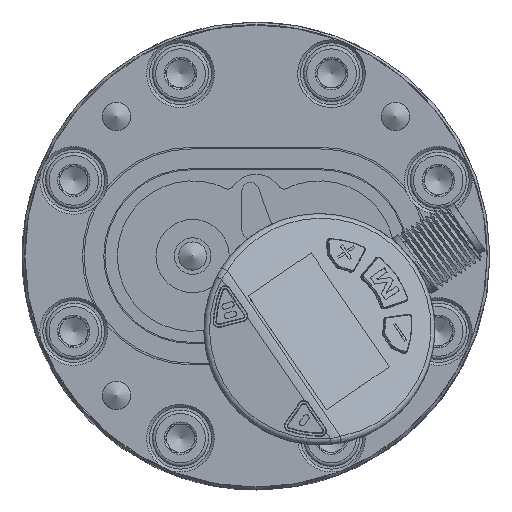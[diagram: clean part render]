
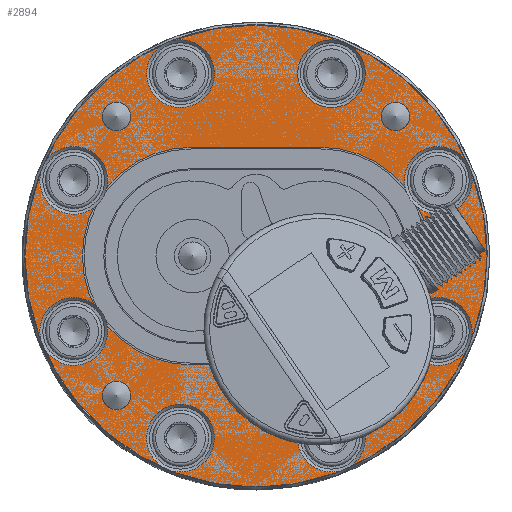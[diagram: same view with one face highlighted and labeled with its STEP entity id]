
A CAD part, top view. The second image highlights one B-rep face of the part: STEP entity #2894.
In plain terms, the highlighted planar face has unit normal (0, 0, 1).
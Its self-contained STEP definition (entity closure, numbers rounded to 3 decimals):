
#2894=ADVANCED_FACE('',(#6294,#6295,#6296,#6297,#6298,#6299,#6300,#6301,
#6302,#6303,#6304,#6305,#6306,#6307),#3775,.T.);
#3775=PLANE('',#15254);
#4160=LINE('',#21211,#4818);
#4163=LINE('',#21219,#4821);
#4818=VECTOR('',#17026,1.);
#4821=VECTOR('',#17035,1.);
#5465=CIRCLE('',#15137,2.5);
#5467=CIRCLE('',#15141,2.5);
#5469=CIRCLE('',#15145,2.5);
#5472=CIRCLE('',#15150,3.);
#5475=CIRCLE('',#15156,3.);
#5478=CIRCLE('',#15162,3.);
#5481=CIRCLE('',#15168,3.);
#5484=CIRCLE('',#15174,3.);
#5487=CIRCLE('',#15180,3.);
#5490=CIRCLE('',#15186,3.);
#5519=CIRCLE('',#15246,19.3);
#5520=CIRCLE('',#15249,19.3);
#5521=CIRCLE('',#15251,41.);
#5522=CIRCLE('',#15252,2.5);
#5523=CIRCLE('',#15253,3.);
#6294=FACE_BOUND('',#7015,.T.);
#6295=FACE_BOUND('',#7016,.T.);
#6296=FACE_BOUND('',#7017,.T.);
#6297=FACE_BOUND('',#7018,.T.);
#6298=FACE_BOUND('',#7019,.T.);
#6299=FACE_BOUND('',#7020,.T.);
#6300=FACE_BOUND('',#7021,.T.);
#6301=FACE_BOUND('',#7022,.T.);
#6302=FACE_BOUND('',#7023,.T.);
#6303=FACE_BOUND('',#7024,.T.);
#6304=FACE_BOUND('',#7025,.T.);
#6305=FACE_BOUND('',#7026,.T.);
#6306=FACE_BOUND('',#7027,.T.);
#6307=FACE_BOUND('',#7028,.T.);
#7015=EDGE_LOOP('',(#8422));
#7016=EDGE_LOOP('',(#8423));
#7017=EDGE_LOOP('',(#8424));
#7018=EDGE_LOOP('',(#8425));
#7019=EDGE_LOOP('',(#8426));
#7020=EDGE_LOOP('',(#8427));
#7021=EDGE_LOOP('',(#8428));
#7022=EDGE_LOOP('',(#8429));
#7023=EDGE_LOOP('',(#8430));
#7024=EDGE_LOOP('',(#8431));
#7025=EDGE_LOOP('',(#8432));
#7026=EDGE_LOOP('',(#8433));
#7027=EDGE_LOOP('',(#8434));
#7028=EDGE_LOOP('',(#8435,#8436,#8437,#8438));
#8422=ORIENTED_EDGE('',*,*,#13139,.T.);
#8423=ORIENTED_EDGE('',*,*,#13037,.T.);
#8424=ORIENTED_EDGE('',*,*,#13039,.T.);
#8425=ORIENTED_EDGE('',*,*,#13041,.T.);
#8426=ORIENTED_EDGE('',*,*,#13140,.T.);
#8427=ORIENTED_EDGE('',*,*,#13044,.T.);
#8428=ORIENTED_EDGE('',*,*,#13047,.T.);
#8429=ORIENTED_EDGE('',*,*,#13050,.T.);
#8430=ORIENTED_EDGE('',*,*,#13053,.T.);
#8431=ORIENTED_EDGE('',*,*,#13056,.T.);
#8432=ORIENTED_EDGE('',*,*,#13059,.T.);
#8433=ORIENTED_EDGE('',*,*,#13062,.T.);
#8434=ORIENTED_EDGE('',*,*,#13141,.T.);
#8435=ORIENTED_EDGE('',*,*,#13138,.T.);
#8436=ORIENTED_EDGE('',*,*,#13136,.T.);
#8437=ORIENTED_EDGE('',*,*,#13134,.T.);
#8438=ORIENTED_EDGE('',*,*,#13132,.T.);
#11806=VERTEX_POINT('',#20973);
#11809=VERTEX_POINT('',#20980);
#11812=VERTEX_POINT('',#20987);
#11815=VERTEX_POINT('',#20995);
#11819=VERTEX_POINT('',#21005);
#11823=VERTEX_POINT('',#21015);
#11827=VERTEX_POINT('',#21025);
#11831=VERTEX_POINT('',#21035);
#11835=VERTEX_POINT('',#21045);
#11839=VERTEX_POINT('',#21055);
#11889=VERTEX_POINT('',#21210);
#11890=VERTEX_POINT('',#21212);
#11891=VERTEX_POINT('',#21216);
#11892=VERTEX_POINT('',#21220);
#11893=VERTEX_POINT('',#21226);
#11894=VERTEX_POINT('',#21228);
#11895=VERTEX_POINT('',#21230);
#13037=EDGE_CURVE('',#11806,#11806,#5465,.T.);
#13039=EDGE_CURVE('',#11809,#11809,#5467,.T.);
#13041=EDGE_CURVE('',#11812,#11812,#5469,.T.);
#13044=EDGE_CURVE('',#11815,#11815,#5472,.T.);
#13047=EDGE_CURVE('',#11819,#11819,#5475,.T.);
#13050=EDGE_CURVE('',#11823,#11823,#5478,.T.);
#13053=EDGE_CURVE('',#11827,#11827,#5481,.T.);
#13056=EDGE_CURVE('',#11831,#11831,#5484,.T.);
#13059=EDGE_CURVE('',#11835,#11835,#5487,.T.);
#13062=EDGE_CURVE('',#11839,#11839,#5490,.T.);
#13132=EDGE_CURVE('',#11890,#11889,#4160,.T.);
#13134=EDGE_CURVE('',#11891,#11890,#5519,.T.);
#13136=EDGE_CURVE('',#11892,#11891,#4163,.T.);
#13138=EDGE_CURVE('',#11889,#11892,#5520,.T.);
#13139=EDGE_CURVE('',#11893,#11893,#5521,.T.);
#13140=EDGE_CURVE('',#11894,#11894,#5522,.T.);
#13141=EDGE_CURVE('',#11895,#11895,#5523,.T.);
#15137=AXIS2_PLACEMENT_3D('',#20972,#16779,#16780);
#15141=AXIS2_PLACEMENT_3D('',#20979,#16787,#16788);
#15145=AXIS2_PLACEMENT_3D('',#20986,#16795,#16796);
#15150=AXIS2_PLACEMENT_3D('',#20994,#16805,#16806);
#15156=AXIS2_PLACEMENT_3D('',#21004,#16817,#16818);
#15162=AXIS2_PLACEMENT_3D('',#21014,#16829,#16830);
#15168=AXIS2_PLACEMENT_3D('',#21024,#16841,#16842);
#15174=AXIS2_PLACEMENT_3D('',#21034,#16853,#16854);
#15180=AXIS2_PLACEMENT_3D('',#21044,#16865,#16866);
#15186=AXIS2_PLACEMENT_3D('',#21054,#16877,#16878);
#15246=AXIS2_PLACEMENT_3D('',#21215,#17030,#17031);
#15249=AXIS2_PLACEMENT_3D('',#21223,#17039,#17040);
#15251=AXIS2_PLACEMENT_3D('',#21225,#17043,#17044);
#15252=AXIS2_PLACEMENT_3D('',#21227,#17045,#17046);
#15253=AXIS2_PLACEMENT_3D('',#21229,#17047,#17048);
#15254=AXIS2_PLACEMENT_3D('',#21231,#17049,#17050);
#16779=DIRECTION('',(0.,0.,-1.));
#16780=DIRECTION('',(-0.707,0.707,0.));
#16787=DIRECTION('',(0.,0.,-1.));
#16788=DIRECTION('',(0.707,0.707,0.));
#16795=DIRECTION('',(0.,0.,-1.));
#16796=DIRECTION('',(0.707,-0.707,0.));
#16805=DIRECTION('',(0.,0.,-1.));
#16806=DIRECTION('',(0.924,-0.383,0.));
#16817=DIRECTION('',(0.,0.,-1.));
#16818=DIRECTION('',(0.383,-0.924,0.));
#16829=DIRECTION('',(0.,0.,-1.));
#16830=DIRECTION('',(-0.383,-0.924,0.));
#16841=DIRECTION('',(0.,0.,-1.));
#16842=DIRECTION('',(-0.924,-0.383,0.));
#16853=DIRECTION('',(0.,0.,-1.));
#16854=DIRECTION('',(-0.924,0.383,0.));
#16865=DIRECTION('',(0.,0.,-1.));
#16866=DIRECTION('',(-0.383,0.924,0.));
#16877=DIRECTION('',(0.,0.,-1.));
#16878=DIRECTION('',(0.383,0.924,0.));
#17026=DIRECTION('',(-1.,0.,0.));
#17030=DIRECTION('',(0.,0.,-1.));
#17031=DIRECTION('',(1.,0.,0.));
#17035=DIRECTION('',(1.,0.,0.));
#17039=DIRECTION('',(0.,0.,-1.));
#17040=DIRECTION('',(1.,0.,0.));
#17043=DIRECTION('',(0.,0.,1.));
#17044=DIRECTION('',(1.,0.,0.));
#17045=DIRECTION('',(0.,0.,-1.));
#17046=DIRECTION('',(-0.707,-0.707,0.));
#17047=DIRECTION('',(0.,0.,-1.));
#17048=DIRECTION('',(0.924,0.383,0.));
#17049=DIRECTION('',(0.,0.,1.));
#17050=DIRECTION('',(1.,0.,0.));
#20972=CARTESIAN_POINT('',(24.749,-23.749,38.));
#20973=CARTESIAN_POINT('',(22.981,-21.981,38.));
#20979=CARTESIAN_POINT('',(-24.749,-23.749,38.));
#20980=CARTESIAN_POINT('',(-22.981,-21.981,38.));
#20986=CARTESIAN_POINT('',(-24.749,25.749,38.));
#20987=CARTESIAN_POINT('',(-22.981,23.981,38.));
#20994=CARTESIAN_POINT('',(32.336,-12.394,38.));
#20995=CARTESIAN_POINT('',(35.107,-13.542,38.));
#21004=CARTESIAN_POINT('',(13.394,-31.336,38.));
#21005=CARTESIAN_POINT('',(14.542,-34.107,38.));
#21014=CARTESIAN_POINT('',(-13.394,-31.336,38.));
#21015=CARTESIAN_POINT('',(-14.542,-34.107,38.));
#21024=CARTESIAN_POINT('',(-32.336,-12.394,38.));
#21025=CARTESIAN_POINT('',(-35.107,-13.542,38.));
#21034=CARTESIAN_POINT('',(-32.336,14.394,38.));
#21035=CARTESIAN_POINT('',(-35.107,15.542,38.));
#21044=CARTESIAN_POINT('',(-13.394,33.336,38.));
#21045=CARTESIAN_POINT('',(-14.542,36.107,38.));
#21054=CARTESIAN_POINT('',(13.394,33.336,38.));
#21055=CARTESIAN_POINT('',(14.542,36.107,38.));
#21210=CARTESIAN_POINT('',(-11.5,-18.3,38.));
#21211=CARTESIAN_POINT('',(0.,-18.3,38.));
#21212=CARTESIAN_POINT('',(11.5,-18.3,38.));
#21215=CARTESIAN_POINT('',(11.5,1.,38.));
#21216=CARTESIAN_POINT('',(11.5,20.3,38.));
#21219=CARTESIAN_POINT('',(0.,20.3,38.));
#21220=CARTESIAN_POINT('',(-11.5,20.3,38.));
#21223=CARTESIAN_POINT('',(-11.5,1.,38.));
#21225=CARTESIAN_POINT('',(0.,1.,38.));
#21226=CARTESIAN_POINT('',(41.,1.,38.));
#21227=CARTESIAN_POINT('',(24.749,25.749,38.));
#21228=CARTESIAN_POINT('',(22.981,23.981,38.));
#21229=CARTESIAN_POINT('',(32.336,14.394,38.));
#21230=CARTESIAN_POINT('',(35.107,15.542,38.));
#21231=CARTESIAN_POINT('',(0.,1.,38.));
